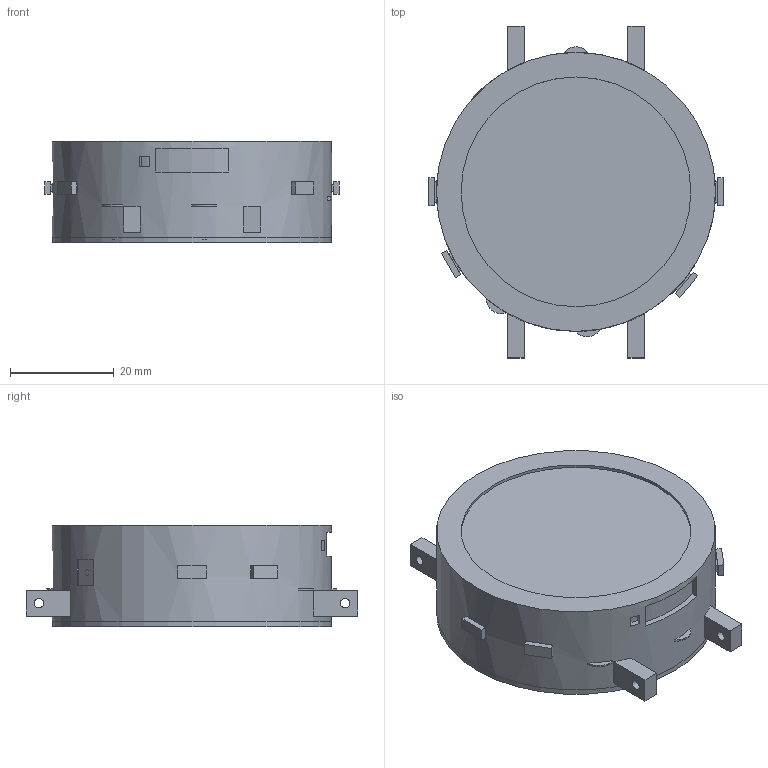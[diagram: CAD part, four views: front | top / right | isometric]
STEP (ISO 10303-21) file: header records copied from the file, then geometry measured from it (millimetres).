
FILE_DESCRIPTION(('Open CASCADE Model'),'2;1');
FILE_NAME('Open CASCADE Shape Model','2026-10-18T23:08:38',('Author'),( 'Open CASCADE'),'Open CASCADE STEP processor 7.9','Open CASCADE 7.9' ,'Unknown');
FILE_SCHEMA(('AUTOMOTIVE_DESIGN { 1 0 10303 214 1 1 1 1 }'));
Length unit declared in the file: millimetre
Products named in the file (38): UNVERIFIED_full_cell_stacked; PRINT_key_1; PH_switch_1; PRINT_key_2; PH_switch_2; PRINT_key_3; PH_switch_3; PRINT_key_4; PH_switch_4; PRINT_rear_cover; PRINT_host_retainer; PRINT_accessory_deck; PRINT_speaker_cup; PH_speaker_SP1003_RESERVED; PH_speaker_gasket; PH_speaker_edge_retainer; CUT_LRA_rigid_shim; PH_LRA_VG0825003D; PRINT_PCB_post_-6.0_-19.0; PRINT_PCB_post_2.0_-13.0; PH_daughterboard; PH_core_components; PH_compass_island; PH_compass_IC; PH_barometer_island; PH_barometer_IC; PH_ALS_island; PH_ALS_IC; PH_pressure_membrane_UNSELECTED; PH_ALS_window; PRINT_ALS_blackout; PH_UNSELECTED_battery; CUT_dielectric_liner; PRINT_cell_guide_110; PRINT_cell_guide_290; PH_host_UNREGISTERED; PRINT_upper_housing; PH_pack_protection_UNSELECTED
Assembly tree (37 placements, depth 2):
  UNVERIFIED_full_cell_stacked
    PRINT_key_1
    PH_switch_1
    PRINT_key_2
    PH_switch_2
    PRINT_key_3
    PH_switch_3
    PRINT_key_4
    PH_switch_4
    PRINT_rear_cover
    PRINT_host_retainer
    PRINT_accessory_deck
    PRINT_speaker_cup
    PH_speaker_SP1003_RESERVED
    PH_speaker_gasket
    PH_speaker_edge_retainer
    CUT_LRA_rigid_shim
    PH_LRA_VG0825003D
    PRINT_PCB_post_-6.0_-19.0
    PRINT_PCB_post_2.0_-13.0
    PH_daughterboard
    PH_core_components
    PH_compass_island
    PH_compass_IC
    PH_barometer_island
    PH_barometer_IC
    PH_ALS_island
    PH_ALS_IC
    PH_pressure_membrane_UNSELECTED
    PH_ALS_window
    PRINT_ALS_blackout
    PH_UNSELECTED_battery
    CUT_dielectric_liner
    PRINT_cell_guide_110
    PRINT_cell_guide_290
    PH_host_UNREGISTERED
    PRINT_upper_housing
    PH_pack_protection_UNSELECTED
Bounding box: 56.8 x 64 x 19.5 mm (x, y, z)
Volume: 28425.4 mm3; surface area: 32830.8 mm2
Topology: 37 solids, 37 shells, 430 faces, 971 edges, 647 vertices
Faces by surface type: plane 368, cylinder 62
Full cylindrical faces by diameter (mm): 1.1 x2, 1.2 x1, 1.36 x3, 1.6 x2, 1.8 x4, 1.9 x2, 2.7 x2, 3.3 x2, 8 x1, 9 x1, 9.2 x1, 9.6 x1, 10 x1, 10.6 x1, 10.7 x1, 10.8 x1, 12.8 x1, 44.3 x1, 45 x2, 46 x1, 50.9 x1, 51 x1, 51.6 x1, 53.8 x2
Entity records: 25755 total; most frequent: CARTESIAN_POINT 5382, DIRECTION 3541, LINE 2087, VECTOR 2087, ORIENTED_EDGE 1942, PCURVE 1942, DEFINITIONAL_REPRESENTATION 1942, EDGE_CURVE 971
